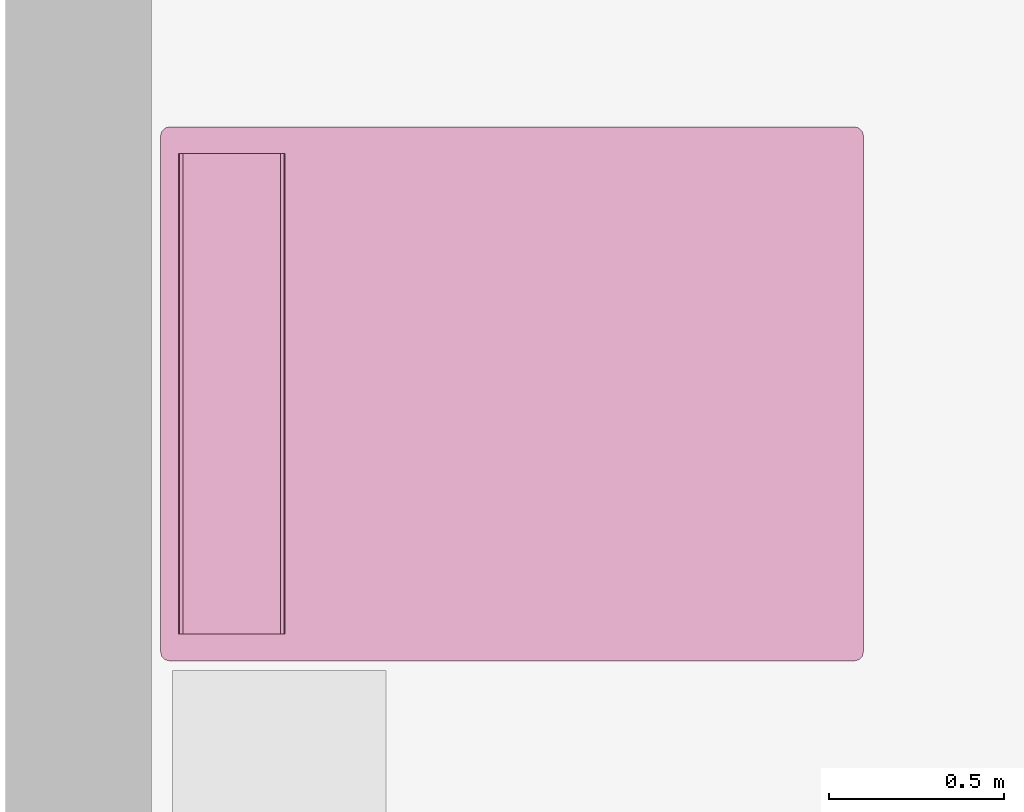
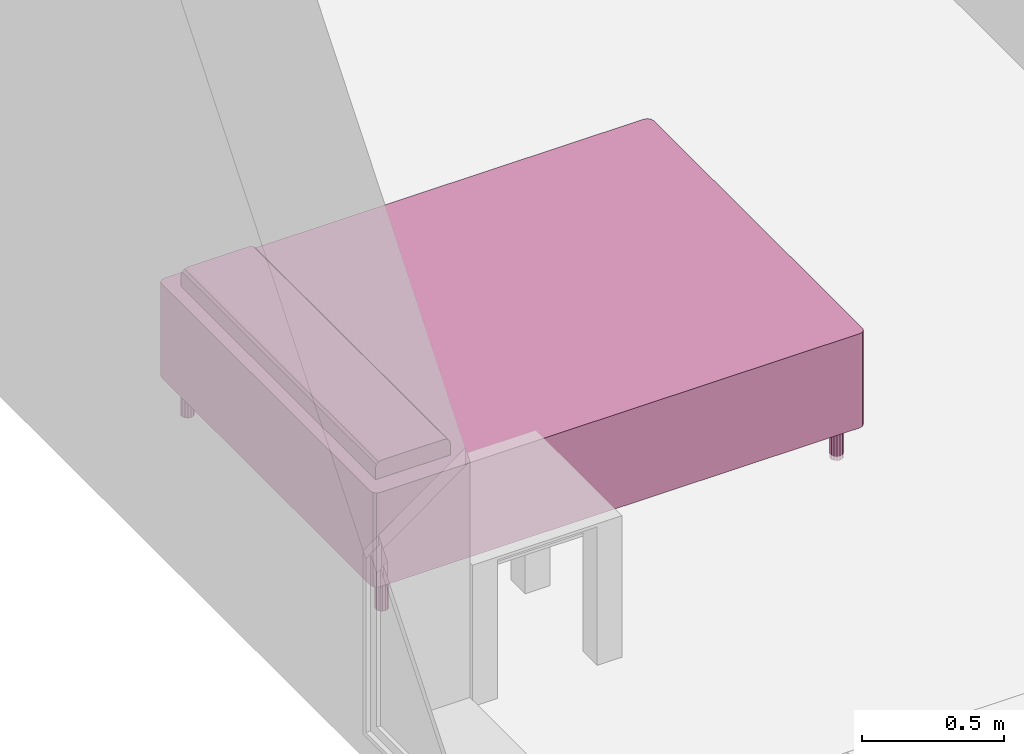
# One storey, part 7 of 8: 1 furnishing.
"""IFC4 building model written with IfcOpenShell, lengths in metres."""

from ifc_helpers import new_model, entity, si_unit, converted_unit, frame, origin, place, context, project, spatial, face_set, surface_model, source, transform, mapped, element, save


model = new_model("IFC4")

# Units and contexts
model_context = context("Model", 3, precision=1e-09, world=origin())
plan_context = context("Plan", 3, precision=1e-09, world=origin())
ifc_project = project(units=[si_unit("LENGTHUNIT", "METRE"), si_unit("AREAUNIT", "SQUARE_METRE"), si_unit("VOLUMEUNIT", "CUBIC_METRE"), converted_unit("PLANEANGLEUNIT", "DEGREE", entity("IfcRatioMeasure", 0.01745329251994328), si_unit("PLANEANGLEUNIT", "RADIAN"), dimensions=[0, 0, 0, 0, 0, 0, 0]), si_unit("TIMEUNIT", "SECOND")], contexts=[model_context, plan_context])

# Site, building, storey, space
site_placement = place(None, origin())
site = spatial("IfcSite", under=ifc_project, at=site_placement, Name="Default", CompositionType="ELEMENT")
building_placement = place(site_placement, origin())
building = spatial("IfcBuilding", under=site, at=building_placement, CompositionType="ELEMENT")
storey_placement = place(building_placement, frame((0.0, 0.0, 3.100000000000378)))
storey = spatial("IfcBuildingStorey", under=building, at=storey_placement, Name="Level 2", CompositionType="ELEMENT", Elevation=3.100000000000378)
space_placement = place(storey_placement, origin())
space = spatial("IfcSpace", under=storey, at=space_placement, Name="B203", CompositionType="ELEMENT", PredefinedType="INTERNAL")

# Furnishing
shared_shape = source(origin(), model_context, "Body", "SurfaceModel", [
    surface_model("IfcFaceBasedSurfaceModel", [(0.001595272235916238, 0.02699527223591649, 0.3556), (0.001595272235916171, 1.983195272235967, 0.3556), (0.004998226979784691, 1.995895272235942, 0.3556), (0.01429527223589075, 2.005192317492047, 0.3556), (0.02699527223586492, 2.008595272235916, 0.3556), (1.501195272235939, 2.008595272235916, 0.3556), (1.513895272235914, 2.005192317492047, 0.3556), (1.523192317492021, 1.995895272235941, 0.3556), (1.52659527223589, 1.983195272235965, 0.3556), (1.52659527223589, 0.02699527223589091, 0.3556), (1.523192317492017, 0.01429527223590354, 0.3556), (1.513895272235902, 0.004998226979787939, 0.3556), (1.501195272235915, 0.001595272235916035, 0.3556), (0.02699527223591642, 0.001595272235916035, 0.3556), (0.01429527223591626, 0.004998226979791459, 0.3556), (0.004998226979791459, 0.0142952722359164, 0.3556), (0.001595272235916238, 0.02699527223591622, 0.1524), (0.001595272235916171, 1.983195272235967, 0.1524), (0.004998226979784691, 1.995895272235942, 0.1524), (0.01429527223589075, 2.005192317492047, 0.1524), (0.02699527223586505, 2.008595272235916, 0.1524), (1.501195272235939, 2.008595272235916, 0.1524), (1.513895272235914, 2.005192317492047, 0.1524), (1.523192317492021, 1.995895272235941, 0.1524), (1.52659527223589, 1.983195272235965, 0.1524), (1.52659527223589, 0.02699527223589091, 0.1524), (1.523192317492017, 0.01429527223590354, 0.1524), (1.513895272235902, 0.004998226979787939, 0.1524), (1.501195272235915, 0.001595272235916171, 0.1524), (0.02699527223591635, 0.001595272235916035, 0.1524), (0.01429527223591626, 0.004998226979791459, 0.1524), (0.004998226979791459, 0.0142952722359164, 0.1524), (0.003559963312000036, 0.01966295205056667, 0.1524000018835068), (0.003296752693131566, 0.02064530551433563, 0.3555999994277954), (0.0096467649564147, 0.009646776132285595, 0.3555999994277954), (0.0096467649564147, 0.009646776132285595, 0.1524000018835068), (0.02064525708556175, 0.003296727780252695, 0.1524000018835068), (0.01966294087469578, 0.003559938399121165, 0.3555999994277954), (1.508527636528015, 0.003559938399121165, 0.1524000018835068), (1.507545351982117, 0.003296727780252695, 0.3555999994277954), (1.518543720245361, 0.009646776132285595, 0.3555999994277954), (1.518543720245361, 0.009646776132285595, 0.1524000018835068), (1.524893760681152, 0.02064530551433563, 0.1524000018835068), (1.524630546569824, 0.01966295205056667, 0.3555999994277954), (1.524893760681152, 1.989545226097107, 0.3555999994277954), (1.524893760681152, 1.989545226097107, 0.1524000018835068), (1.518543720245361, 2.000543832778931, 0.3555999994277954), (1.518543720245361, 2.000543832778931, 0.1524000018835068), (1.507545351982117, 2.006893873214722, 0.1524000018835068), (1.508527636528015, 2.006630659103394, 0.3555999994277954), (0.01966294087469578, 2.006630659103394, 0.1524000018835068), (0.02064525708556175, 2.006893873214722, 0.3555999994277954), (0.0096467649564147, 2.000543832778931, 0.3555999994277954), (0.0096467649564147, 2.000543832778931, 0.1524000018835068), (0.003296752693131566, 1.989545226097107, 0.1524000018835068), (0.003559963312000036, 1.990527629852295, 0.3555999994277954), (0.07779527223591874, 1.652995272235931, 0.5588000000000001), (0.07779527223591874, 1.652995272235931, 0.6096), (0.07779527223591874, 1.656398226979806, 0.6223), (0.07779527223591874, 1.665695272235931, 0.6315970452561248), (0.07779527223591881, 1.678395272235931, 0.6349999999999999), (0.07779527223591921, 1.932395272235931, 0.6349999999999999), (0.07779527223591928, 1.945095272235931, 0.6315970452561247), (0.07779527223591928, 1.954392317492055, 0.6222999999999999), (0.07779527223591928, 1.957795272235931, 0.6095999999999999), (0.07779527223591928, 1.957795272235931, 0.5588000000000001), (1.45039527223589, 1.652995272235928, 0.5588000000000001), (1.450395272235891, 1.957795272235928, 0.5588000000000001), (1.450395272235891, 1.957795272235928, 0.6095999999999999), (1.450395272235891, 1.954392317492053, 0.6222999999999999), (1.450395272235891, 1.945095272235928, 0.6315970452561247), (1.450395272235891, 1.932395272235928, 0.6349999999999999), (1.45039527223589, 1.678395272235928, 0.6349999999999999), (1.45039527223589, 1.665695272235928, 0.6315970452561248), (1.45039527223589, 1.656398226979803, 0.6223), (1.45039527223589, 1.652995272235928, 0.6096), (0.07779525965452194, 1.655322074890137, 0.6182838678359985), (1.450395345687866, 1.654696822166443, 0.6159499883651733), (0.07779525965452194, 1.654158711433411, 0.6139419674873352), (0.07779525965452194, 1.674053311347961, 0.6338366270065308), (1.450395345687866, 1.672045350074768, 0.6332985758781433), (0.07779525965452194, 1.661046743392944, 0.6269484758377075), (1.450395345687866, 1.661046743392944, 0.6269484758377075), (0.07779525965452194, 1.669711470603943, 0.6326731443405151), (1.450395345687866, 1.941079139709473, 0.6326731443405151), (0.07779525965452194, 1.956631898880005, 0.6139419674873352), (1.450395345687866, 1.956093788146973, 0.6159499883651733), (0.07779525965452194, 1.938745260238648, 0.6332985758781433), (1.450395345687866, 1.936737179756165, 0.6338366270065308), (0.07779525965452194, 1.949743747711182, 0.6269484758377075), (1.450395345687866, 1.949743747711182, 0.6269484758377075), (0.07779525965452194, 1.955468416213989, 0.6182838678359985), (0.1031952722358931, 1.932395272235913, 0.1524), (0.1006798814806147, 1.921374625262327, 0.1524), (0.09363191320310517, 1.912536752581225, 0.1524), (0.08344730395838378, 1.907632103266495, 0.1524), (0.0721432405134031, 1.907632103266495, 0.1524), (0.06195863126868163, 1.912536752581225, 0.1524), (0.05491066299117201, 1.921374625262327, 0.1524), (0.05239527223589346, 1.932395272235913, 0.1524), (0.05491066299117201, 1.943415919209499, 0.1524), (0.06195863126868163, 1.9522537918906, 0.1524), (0.07214324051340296, 1.957158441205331, 0.1524), (0.0834473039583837, 1.957158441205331, 0.1524), (0.09363191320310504, 1.9522537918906, 0.1524), (0.1006798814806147, 1.943415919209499, 0.1524), (1.475795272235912, 1.93239527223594, 0.1524), (1.473279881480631, 1.921374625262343, 0.1524), (1.466231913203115, 1.912536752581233, 0.1524), (1.456047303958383, 1.907632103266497, 0.1524), (1.444743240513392, 1.907632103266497, 0.1524), (1.434558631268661, 1.912536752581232, 0.1524), (1.427510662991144, 1.921374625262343, 0.1524), (1.424995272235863, 1.932395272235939, 0.1524), (1.427510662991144, 1.943415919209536, 0.1524), (1.434558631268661, 1.952253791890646, 0.1524), (1.444743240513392, 1.957158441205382, 0.1524), (1.456047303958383, 1.957158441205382, 0.1524), (1.466231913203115, 1.952253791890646, 0.1524), (1.473279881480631, 1.943415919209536, 0.1524), (1.475795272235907, 0.07779527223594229, 0.1524), (1.473279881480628, 0.06677462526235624, 0.1524), (1.466231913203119, 0.05793675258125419, 0.1524), (1.456047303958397, 0.05303210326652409, 0.1524), (1.444743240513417, 0.05303210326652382, 0.1524), (1.434558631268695, 0.05793675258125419, 0.1524), (1.427510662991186, 0.06677462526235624, 0.1524), (1.424995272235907, 0.07779527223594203, 0.1524), (1.427510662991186, 0.08881591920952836, 0.1524), (1.434558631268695, 0.09765379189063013, 0.1524), (1.444743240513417, 0.1025584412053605, 0.1524), (1.456047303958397, 0.1025584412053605, 0.1524), (1.466231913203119, 0.09765379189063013, 0.1524), (1.473279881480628, 0.0888159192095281, 0.1524), (0.1031952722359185, 0.07779527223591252, 0.1524), (0.1006798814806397, 0.0667746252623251, 0.1524), (0.0936319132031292, 0.0579367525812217, 0.1524), (0.08344730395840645, 0.05303210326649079, 0.1524), (0.07214324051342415, 0.05303210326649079, 0.1524), (0.06195863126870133, 0.0579367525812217, 0.1524), (0.05491066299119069, 0.06677462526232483, 0.1524), (0.0523952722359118, 0.07779527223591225, 0.1524), (0.05491066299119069, 0.08881591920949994, 0.1524), (0.06195863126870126, 0.09765379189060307, 0.1524), (0.07214324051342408, 0.102558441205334, 0.1524), (0.08344730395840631, 0.102558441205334, 0.1524), (0.09363191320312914, 0.09765379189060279, 0.1524), (0.1006798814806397, 0.08881591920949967, 0.1524), (0.1031952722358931, 1.932395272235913, 0.0), (0.1006798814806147, 1.921374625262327, 0.0), (0.09363191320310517, 1.912536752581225, 0.0), (0.08344730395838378, 1.907632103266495, 0.0), (0.0721432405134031, 1.907632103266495, 0.0), (0.06195863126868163, 1.912536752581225, 0.0), (0.05491066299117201, 1.921374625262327, 0.0), (0.05239527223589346, 1.932395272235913, 0.0), (0.05491066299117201, 1.943415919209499, 0.0), (0.06195863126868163, 1.9522537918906, 0.0), (0.07214324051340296, 1.957158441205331, 0.0), (0.0834473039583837, 1.957158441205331, 0.0), (0.09363191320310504, 1.9522537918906, 0.0), (0.1006798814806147, 1.943415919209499, 0.0), (1.475795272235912, 1.932395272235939, 0.0), (1.473279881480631, 1.921374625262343, 0.0), (1.466231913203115, 1.912536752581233, 0.0), (1.456047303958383, 1.907632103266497, 0.0), (1.444743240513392, 1.907632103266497, 0.0), (1.434558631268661, 1.912536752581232, 0.0), (1.427510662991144, 1.921374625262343, 0.0), (1.424995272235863, 1.93239527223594, 0.0), (1.427510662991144, 1.943415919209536, 0.0), (1.434558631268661, 1.952253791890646, 0.0), (1.444743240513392, 1.957158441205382, 0.0), (1.456047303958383, 1.957158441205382, 0.0), (1.466231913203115, 1.952253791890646, 0.0), (1.473279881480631, 1.943415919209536, 0.0), (1.475795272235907, 0.07779527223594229, 0.0), (1.473279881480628, 0.06677462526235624, 0.0), (1.466231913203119, 0.05793675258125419, 0.0), (1.456047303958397, 0.05303210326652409, 0.0), (1.444743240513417, 0.05303210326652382, 0.0), (1.434558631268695, 0.05793675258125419, 0.0), (1.427510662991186, 0.06677462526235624, 0.0), (1.424995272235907, 0.07779527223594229, 0.0), (1.427510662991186, 0.08881591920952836, 0.0), (1.434558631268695, 0.09765379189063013, 0.0), (1.444743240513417, 0.1025584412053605, 0.0), (1.456047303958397, 0.1025584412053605, 0.0), (1.466231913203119, 0.09765379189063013, 0.0), (1.473279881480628, 0.0888159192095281, 0.0), (0.1031952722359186, 0.07779527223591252, 0.0), (0.1006798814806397, 0.0667746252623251, 0.0), (0.0936319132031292, 0.0579367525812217, 0.0), (0.08344730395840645, 0.05303210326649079, 0.0), (0.07214324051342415, 0.05303210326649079, 0.0), (0.06195863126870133, 0.0579367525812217, 0.0), (0.05491066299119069, 0.06677462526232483, 0.0), (0.05239527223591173, 0.07779527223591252, 0.0), (0.05491066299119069, 0.08881591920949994, 0.0), (0.06195863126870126, 0.09765379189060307, 0.0), (0.07214324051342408, 0.102558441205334, 0.0), (0.08344730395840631, 0.102558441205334, 0.0), (0.09363191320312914, 0.09765379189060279, 0.0), (0.1006798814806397, 0.08881591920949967, 0.0), (0.05365298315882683, 1.926885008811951, 0.1524000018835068), (0.0584346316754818, 1.916955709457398, 0.0), (0.0584346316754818, 1.916955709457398, 0.1524000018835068), (0.1020657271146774, 1.927446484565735, 0.1524000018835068), (0.1019375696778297, 1.926885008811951, 0.0), (0.06705092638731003, 1.910084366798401, 0.0), (0.06705092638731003, 1.910084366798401, 0.1524000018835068), (0.05352479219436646, 1.927446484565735, 0.0), (0.07779525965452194, 1.907632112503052, 0.1524000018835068), (0.07779525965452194, 1.907632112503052, 0.0), (0.08853962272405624, 1.910084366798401, 0.0), (0.08853962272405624, 1.910084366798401, 0.1524000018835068), (0.09715588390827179, 1.916955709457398, 0.1524000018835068), (0.09715588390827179, 1.916955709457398, 0.0), (0.1020657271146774, 1.937344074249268, 0.0), (0.1019375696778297, 1.937905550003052, 0.1524000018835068), (0.09715588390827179, 1.947834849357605, 0.0), (0.09715588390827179, 1.947834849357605, 0.1524000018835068), (0.08853962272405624, 1.954706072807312, 0.1524000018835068), (0.08853962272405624, 1.954706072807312, 0.0), (0.07779525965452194, 1.957158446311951, 0.1524000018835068), (0.07779525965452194, 1.957158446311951, 0.0), (0.06705092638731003, 1.954706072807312, 0.1524000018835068), (0.06705092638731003, 1.954706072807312, 0.0), (0.05352479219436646, 1.937344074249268, 0.1524000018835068), (0.0584346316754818, 1.947834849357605, 0.1524000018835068), (0.0584346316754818, 1.947834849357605, 0.0), (0.05365298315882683, 1.937905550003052, 0.0), (1.426252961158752, 1.926885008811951, 0.1524000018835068), (1.431034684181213, 1.916955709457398, 0.0), (1.431034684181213, 1.916955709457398, 0.1524000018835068), (1.47453761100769, 1.926885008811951, 0.0), (1.474665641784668, 1.927446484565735, 0.1524000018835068), (1.439650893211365, 1.910084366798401, 0.0), (1.439650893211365, 1.910084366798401, 0.1524000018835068), (1.426124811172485, 1.927446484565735, 0.0), (1.450395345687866, 1.907632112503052, 0.1524000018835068), (1.450395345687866, 1.907632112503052, 0.0), (1.461139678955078, 1.910084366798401, 0.0), (1.461139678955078, 1.910084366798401, 0.1524000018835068), (1.46975588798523, 1.916955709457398, 0.1524000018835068), (1.46975588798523, 1.916955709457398, 0.0), (1.474665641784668, 1.937344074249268, 0.0), (1.47453761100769, 1.937905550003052, 0.1524000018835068), (1.46975588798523, 1.947834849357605, 0.0), (1.46975588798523, 1.947834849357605, 0.1524000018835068), (1.461139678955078, 1.954706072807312, 0.1524000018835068), (1.461139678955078, 1.954706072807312, 0.0), (1.450395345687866, 1.957158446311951, 0.1524000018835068), (1.450395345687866, 1.957158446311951, 0.0), (1.439650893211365, 1.954706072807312, 0.1524000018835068), (1.439650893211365, 1.954706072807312, 0.0), (1.426124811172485, 1.937344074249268, 0.1524000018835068), (1.431034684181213, 1.947834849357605, 0.1524000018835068), (1.431034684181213, 1.947834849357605, 0.0), (1.426252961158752, 1.937905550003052, 0.0), (1.426252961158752, 0.07228495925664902, 0.1524000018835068), (1.431034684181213, 0.06235569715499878, 0.0), (1.431034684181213, 0.06235569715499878, 0.1524000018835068), (1.47453761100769, 0.07228495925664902, 0.0), (1.474665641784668, 0.07284647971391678, 0.1524000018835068), (1.439650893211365, 0.05548445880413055, 0.1524000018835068), (1.439650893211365, 0.05548445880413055, 0.0), (1.426124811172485, 0.07284647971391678, 0.0), (1.450395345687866, 0.05303213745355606, 0.0), (1.450395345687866, 0.05303213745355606, 0.1524000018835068), (1.461139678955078, 0.05548445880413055, 0.1524000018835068), (1.461139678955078, 0.05548445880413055, 0.0), (1.46975588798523, 0.06235569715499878, 0.1524000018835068), (1.46975588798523, 0.06235569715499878, 0.0), (1.474665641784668, 0.08274412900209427, 0.0), (1.47453761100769, 0.08330558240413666, 0.1524000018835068), (1.46975588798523, 0.0932348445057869, 0.1524000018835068), (1.46975588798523, 0.0932348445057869, 0.0), (1.461139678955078, 0.1001060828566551, 0.0), (1.461139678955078, 0.1001060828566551, 0.1524000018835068), (1.450395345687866, 0.102558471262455, 0.0), (1.450395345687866, 0.102558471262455, 0.1524000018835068), (1.439650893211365, 0.1001060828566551, 0.0), (1.439650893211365, 0.1001060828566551, 0.1524000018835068), (1.426124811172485, 0.08274412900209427, 0.1524000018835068), (1.431034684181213, 0.0932348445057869, 0.0), (1.431034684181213, 0.0932348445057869, 0.1524000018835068), (1.426252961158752, 0.08330558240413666, 0.0), (0.05365298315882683, 0.07228495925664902, 0.1524000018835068), (0.0584346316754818, 0.06235569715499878, 0.1524000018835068), (0.0584346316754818, 0.06235569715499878, 0.0), (0.1020657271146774, 0.07284647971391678, 0.1524000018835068), (0.1019375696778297, 0.07228495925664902, 0.0), (0.06705092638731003, 0.05548445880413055, 0.1524000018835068), (0.06705092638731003, 0.05548445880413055, 0.0), (0.05352479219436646, 0.07284647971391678, 0.0), (0.07779525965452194, 0.05303213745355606, 0.0), (0.07779525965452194, 0.05303213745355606, 0.1524000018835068), (0.08853962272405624, 0.05548445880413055, 0.1524000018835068), (0.08853962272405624, 0.05548445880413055, 0.0), (0.09715588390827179, 0.06235569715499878, 0.1524000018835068), (0.09715588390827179, 0.06235569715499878, 0.0), (0.1020657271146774, 0.08274412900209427, 0.0), (0.1019375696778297, 0.08330558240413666, 0.1524000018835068), (0.09715588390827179, 0.0932348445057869, 0.1524000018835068), (0.09715588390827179, 0.0932348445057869, 0.0), (0.08853962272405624, 0.1001060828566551, 0.0), (0.08853962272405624, 0.1001060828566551, 0.1524000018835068), (0.07779525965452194, 0.102558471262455, 0.0), (0.07779525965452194, 0.102558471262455, 0.1524000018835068), (0.06705092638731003, 0.1001060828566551, 0.0), (0.06705092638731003, 0.1001060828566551, 0.1524000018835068), (0.05352479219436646, 0.08274412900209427, 0.1524000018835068), (0.0584346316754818, 0.0932348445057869, 0.0), (0.0584346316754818, 0.0932348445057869, 0.1524000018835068), (0.05365298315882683, 0.08330558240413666, 0.0), (0.02699527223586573, 2.008595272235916, 0.5588000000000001), (1.50119527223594, 2.008595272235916, 0.5588000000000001), (1.513895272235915, 2.005192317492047, 0.5588000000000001), (1.523192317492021, 1.995895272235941, 0.5588000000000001), (1.52659527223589, 1.983195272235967, 0.5588000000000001), (1.52659527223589, 0.02699527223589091, 0.5588000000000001), (1.523192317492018, 0.01429527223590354, 0.5588000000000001), (1.513895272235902, 0.004998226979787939, 0.5588000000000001), (1.501195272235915, 0.001595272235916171, 0.5588000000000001), (0.02699527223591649, 0.001595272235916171, 0.5588000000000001), (0.01429527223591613, 0.004998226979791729, 0.5588000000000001), (0.004998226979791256, 0.01429527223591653, 0.5588000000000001), (0.001595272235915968, 0.02699527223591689, 0.5588000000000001), (0.001595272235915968, 1.983195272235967, 0.5588000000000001), (0.004998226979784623, 1.995895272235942, 0.5588000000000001), (0.01429527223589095, 2.005192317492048, 0.5588000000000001), (0.02699527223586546, 2.008595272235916, 0.3556), (1.50119527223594, 2.008595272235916, 0.3556), (1.513895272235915, 2.005192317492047, 0.3556), (1.523192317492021, 1.995895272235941, 0.3556), (1.52659527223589, 1.983195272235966, 0.3556), (1.52659527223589, 0.02699527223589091, 0.3556), (1.523192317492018, 0.01429527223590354, 0.3556), (1.513895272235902, 0.004998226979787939, 0.3556), (1.501195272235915, 0.001595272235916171, 0.3556), (0.02699527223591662, 0.001595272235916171, 0.3556), (0.01429527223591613, 0.004998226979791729, 0.3556), (0.004998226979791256, 0.01429527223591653, 0.3556), (0.001595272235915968, 0.02699527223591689, 0.3556), (0.001595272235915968, 1.983195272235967, 0.3556), (0.004998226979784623, 1.995895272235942, 0.3556), (0.01429527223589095, 2.005192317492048, 0.3556), (0.01966294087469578, 2.006630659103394, 0.3555999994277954), (0.02064525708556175, 2.006893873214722, 0.5588000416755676), (0.0096467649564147, 2.000543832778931, 0.5588000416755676), (0.0096467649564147, 2.000543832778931, 0.3555999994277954), (0.003296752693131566, 1.989545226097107, 0.3555999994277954), (0.003559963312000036, 1.990527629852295, 0.5588000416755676), (0.003559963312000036, 0.01966295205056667, 0.3555999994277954), (0.003296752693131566, 0.02064530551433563, 0.5588000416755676), (0.0096467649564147, 0.009646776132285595, 0.5588000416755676), (0.0096467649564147, 0.009646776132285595, 0.3555999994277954), (0.02064525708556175, 0.003296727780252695, 0.3555999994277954), (0.01966294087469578, 0.003559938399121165, 0.5588000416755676), (1.508527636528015, 0.003559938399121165, 0.3555999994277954), (1.507545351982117, 0.003296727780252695, 0.5588000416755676), (1.518543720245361, 0.009646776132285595, 0.5588000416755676), (1.518543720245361, 0.009646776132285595, 0.3555999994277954), (1.524893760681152, 0.02064530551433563, 0.3555999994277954), (1.524630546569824, 0.01966295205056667, 0.5588000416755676), (1.524630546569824, 1.990527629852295, 0.3555999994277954), (1.524893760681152, 1.989545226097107, 0.5588000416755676), (1.518543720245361, 2.000543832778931, 0.5588000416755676), (1.518543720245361, 2.000543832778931, 0.3555999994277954), (1.507545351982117, 2.006893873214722, 0.3555999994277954), (1.508527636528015, 2.006630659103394, 0.5588000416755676)], [face_set([[[0, 1, 2, 3, 4, 5, 6, 7, 8, 9, 10, 11, 12, 13, 14, 15]], [[16, 17, 18, 19, 20, 21, 22, 23, 24, 25, 26, 27, 28, 29, 30, 31]], [[15, 32, 31]], [[32, 15, 33]], [[33, 0, 16]], [[34, 35, 30, 14]], [[16, 32, 33]], [[36, 29, 13]], [[37, 30, 36]], [[35, 34, 15, 31]], [[30, 37, 14]], [[13, 37, 36]], [[12, 28, 29, 13]], [[11, 38, 27]], [[38, 11, 39]], [[39, 12, 28]], [[40, 41, 26, 10]], [[28, 38, 39]], [[42, 25, 9]], [[43, 26, 42]], [[41, 40, 11, 27]], [[26, 43, 10]], [[9, 43, 42]], [[8, 9, 25, 24]], [[44, 8, 24, 45]], [[44, 45, 23, 7]], [[46, 47, 22, 6]], [[48, 21, 5]], [[5, 49, 48]], [[22, 49, 6]], [[47, 46, 7, 23]], [[49, 22, 48]], [[4, 5, 21, 20]], [[3, 50, 19]], [[50, 3, 51]], [[51, 4, 20]], [[52, 53, 18, 2]], [[20, 50, 51]], [[54, 17, 1]], [[55, 18, 54]], [[53, 52, 3, 19]], [[18, 55, 2]], [[1, 55, 54]], [[0, 1, 17, 16]]]), face_set([[[56, 57, 58, 59, 60, 61, 62, 63, 64, 65]], [[66, 67, 68, 69, 70, 71, 72, 73, 74, 75]], [[57, 56, 66, 75]], [[74, 76, 77]], [[78, 75, 77]], [[72, 79, 80]], [[77, 76, 78]], [[81, 82, 73, 59]], [[78, 57, 75]], [[60, 79, 72]], [[83, 80, 79]], [[73, 83, 59]], [[82, 81, 58, 74]], [[83, 73, 80]], [[74, 58, 76]], [[61, 71, 72, 60]], [[62, 84, 70]], [[68, 85, 86]], [[84, 62, 87]], [[71, 88, 61]], [[89, 90, 69, 63]], [[84, 87, 88]], [[64, 85, 68]], [[91, 69, 86]], [[90, 89, 62, 70]], [[69, 91, 63]], [[91, 86, 85]], [[61, 88, 87]], [[65, 67, 68, 64]], [[56, 65, 67, 66]]]), face_set([[[92, 93, 94, 95, 96, 97, 98, 99, 100, 101, 102, 103, 104, 105]], [[106, 107, 108, 109, 110, 111, 112, 113, 114, 115, 116, 117, 118, 119]], [[120, 121, 122, 123, 124, 125, 126, 127, 128, 129, 130, 131, 132, 133]], [[134, 135, 136, 137, 138, 139, 140, 141, 142, 143, 144, 145, 146, 147]], [[148, 149, 150, 151, 152, 153, 154, 155, 156, 157, 158, 159, 160, 161]], [[162, 163, 164, 165, 166, 167, 168, 169, 170, 171, 172, 173, 174, 175]], [[176, 177, 178, 179, 180, 181, 182, 183, 184, 185, 186, 187, 188, 189]], [[190, 191, 192, 193, 194, 195, 196, 197, 198, 199, 200, 201, 202, 203]], [[98, 204, 154]], [[97, 153, 205, 206]], [[207, 208, 93]], [[96, 152, 209, 210]], [[154, 204, 211]], [[204, 99, 211]], [[154, 98, 206, 205]], [[210, 209, 153, 97]], [[96, 212, 151, 213]], [[99, 155, 211]], [[94, 150, 214, 215]], [[150, 94, 216, 217]], [[93, 149, 217, 216]], [[151, 95, 215, 214]], [[208, 207, 148]], [[93, 208, 149]], [[212, 95, 151]], [[96, 213, 152]], [[207, 92, 148]], [[218, 148, 92]], [[219, 218, 92]], [[220, 160, 221, 105]], [[222, 223, 159, 103]], [[218, 219, 161]], [[161, 219, 105]], [[160, 104, 221]], [[220, 105, 161]], [[104, 160, 223, 222]], [[224, 225, 158, 102]], [[226, 227, 157, 101]], [[155, 99, 228]], [[229, 230, 156, 100]], [[230, 229, 101, 157]], [[155, 228, 231]], [[102, 158, 227, 226]], [[156, 231, 100]], [[225, 224, 103, 159]], [[100, 231, 228]], [[168, 232, 112]], [[111, 167, 233, 234]], [[107, 235, 236]], [[110, 166, 237, 238]], [[239, 232, 168]], [[239, 113, 232]], [[168, 112, 234, 233]], [[238, 237, 167, 111]], [[110, 240, 165, 241]], [[239, 169, 113]], [[108, 164, 242, 243]], [[164, 108, 244, 245]], [[107, 163, 245, 244]], [[165, 109, 243, 242]], [[162, 236, 235]], [[163, 235, 107]], [[240, 109, 165]], [[110, 241, 166]], [[162, 106, 236]], [[106, 162, 246]], [[106, 246, 247]], [[248, 174, 249, 119]], [[250, 251, 173, 117]], [[175, 247, 246]], [[119, 247, 175]], [[174, 118, 249]], [[248, 119, 175]], [[118, 174, 251, 250]], [[252, 253, 172, 116]], [[254, 255, 171, 115]], [[256, 113, 169]], [[257, 258, 170, 114]], [[258, 257, 115, 171]], [[259, 256, 169]], [[116, 172, 255, 254]], [[114, 259, 170]], [[253, 252, 117, 173]], [[256, 259, 114]], [[182, 260, 126]], [[261, 181, 262, 126]], [[121, 263, 264]], [[265, 266, 180, 124]], [[267, 260, 182]], [[267, 127, 260]], [[126, 182, 261]], [[125, 181, 266, 265]], [[181, 125, 262]], [[268, 179, 269, 124]], [[267, 183, 127]], [[270, 271, 178, 122]], [[272, 122, 273, 177]], [[271, 270, 123, 179]], [[177, 121, 272]], [[176, 264, 263]], [[122, 178, 273]], [[177, 263, 121]], [[179, 123, 269]], [[180, 268, 124]], [[176, 120, 264]], [[120, 176, 274]], [[120, 274, 275]], [[133, 276, 188, 277]], [[131, 187, 278, 279]], [[189, 275, 274]], [[133, 275, 189]], [[276, 132, 188]], [[189, 133, 277]], [[279, 278, 188, 132]], [[130, 186, 280, 281]], [[129, 185, 282, 283]], [[284, 127, 183]], [[128, 184, 285, 286]], [[185, 129, 286, 285]], [[287, 284, 183]], [[283, 282, 186, 130]], [[128, 287, 184]], [[187, 131, 281, 280]], [[284, 287, 128]], [[140, 288, 196]], [[289, 290, 195, 139]], [[291, 292, 135]], [[293, 294, 194, 138]], [[196, 288, 295]], [[288, 141, 295]], [[290, 289, 140, 196]], [[139, 195, 294, 293]], [[296, 193, 297, 138]], [[141, 197, 295]], [[298, 299, 192, 136]], [[300, 136, 301, 191]], [[299, 298, 137, 193]], [[191, 135, 300]], [[292, 291, 190]], [[136, 192, 301]], [[135, 292, 191]], [[193, 137, 297]], [[194, 296, 138]], [[291, 134, 190]], [[302, 190, 134]], [[303, 302, 134]], [[147, 304, 202, 305]], [[145, 201, 306, 307]], [[302, 303, 203]], [[203, 303, 147]], [[304, 146, 202]], [[203, 147, 305]], [[307, 306, 202, 146]], [[144, 200, 308, 309]], [[143, 199, 310, 311]], [[197, 141, 312]], [[142, 198, 313, 314]], [[199, 143, 314, 313]], [[197, 312, 315]], [[311, 310, 200, 144]], [[198, 315, 142]], [[201, 145, 309, 308]], [[142, 315, 312]]]), face_set([[[316, 317, 318, 319, 320, 321, 322, 323, 324, 325, 326, 327, 328, 329, 330, 331]], [[332, 333, 334, 335, 336, 337, 338, 339, 340, 341, 342, 343, 344, 345, 346, 347]], [[331, 348, 347]], [[348, 331, 349]], [[349, 316, 332]], [[350, 351, 346, 330]], [[332, 348, 349]], [[352, 345, 329]], [[353, 346, 352]], [[351, 350, 331, 347]], [[346, 353, 330]], [[329, 353, 352]], [[328, 329, 345, 344]], [[327, 354, 343]], [[354, 327, 355]], [[355, 328, 344]], [[356, 357, 342, 326]], [[344, 354, 355]], [[358, 341, 325]], [[359, 342, 358]], [[357, 356, 327, 343]], [[342, 359, 326]], [[325, 359, 358]], [[324, 340, 341, 325]], [[323, 360, 339]], [[360, 323, 361]], [[361, 324, 340]], [[362, 363, 338, 322]], [[340, 360, 361]], [[364, 337, 321]], [[365, 338, 364]], [[363, 362, 323, 339]], [[338, 365, 322]], [[321, 365, 364]], [[320, 321, 337, 336]], [[319, 366, 335]], [[366, 319, 367]], [[367, 320, 336]], [[368, 369, 334, 318]], [[336, 366, 367]], [[370, 333, 317]], [[371, 334, 370]], [[369, 368, 319, 335]], [[334, 371, 318]], [[317, 371, 370]], [[316, 317, 333, 332]]])]),
])
furnishing_placement = place(space_placement, frame((2.451595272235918, -4.586095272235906, 0.0), z_axis=(0.0, 0.0, 1.0), x_axis=(0.0, 1.0, 0.0)))
element("IfcFurnishingElement", 1, at=furnishing_placement, inside=space, Name="M_Bed-Standard:1525 x 2007mm - Queen:1525 x 2007mm - Queen", ObjectType="1525 x 2007mm - Queen", context=model_context, shape_type="MappedRepresentation", body=[
    mapped(shared_shape, transform((0.0, 0.0, 0.0), scale=1.0)),
])

save(model, "model.ifc")
